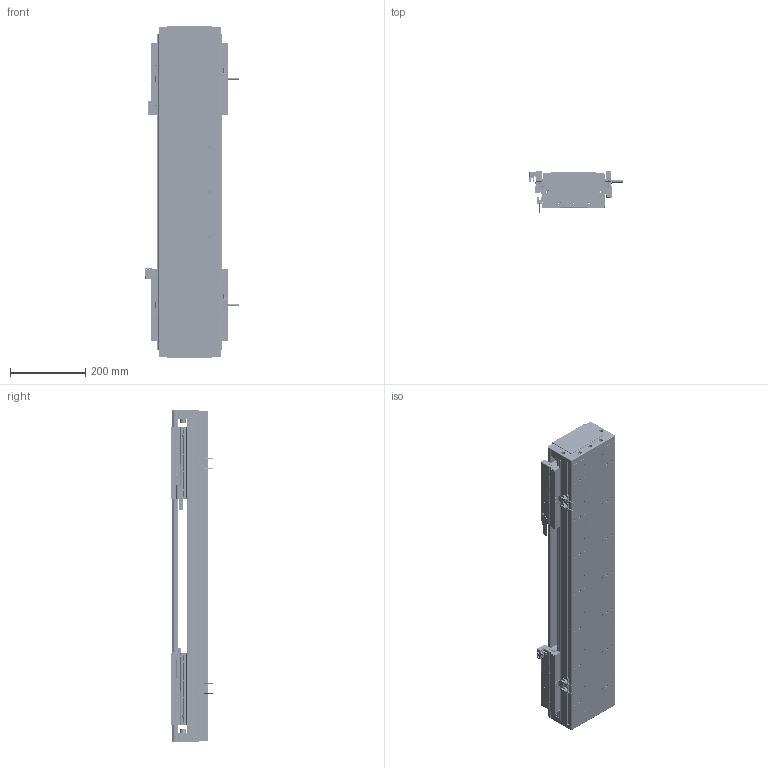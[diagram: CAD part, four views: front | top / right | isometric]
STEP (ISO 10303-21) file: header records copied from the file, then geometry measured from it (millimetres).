
FILE_DESCRIPTION (( 'STEP AP203' ), '1' );
FILE_NAME ('DA-C165-2-C2-T380-C010-0.2 直线电机.STEP', '2023-05-11T08:15:52', ( '微软用户' ), ( '微软中国' ), 'SwSTEP 2.0', 'SolidWorks 2019', '' );
FILE_SCHEMA (( 'CONFIG_CONTROL_DESIGN' ));
Length unit declared in the file: millimetre
Products named in the file (19): 复件 66338-1000-006-00 光电感应块^DA-C165-C2-T-C010-0.2-N 直线电机; 葩璃 PM-T45^DA-C165-C2-T-C010-0.2-N 眻盄萇儂; 复件 DA95-HXJ-00 缓冲橡胶^DA-C165-C2-T-C010-0.2-N 直线电机; IU-CU165-L-00 菁釱_L840; DA-C165-2-C2-T380-C010-0.2 眻盄萇儂; 复件 DA165-T-002-00 盖板^DA-C165-C2-T-C010-0.2-N 直线电机_0840-002-00; 复件 CKM02-W075-C1C2-TP-3.0 一体电机-C2^DA-C165-C2-T-C010-0.2-N 直线电机; 葩璃 PM-Y45^DA-C165-C2-T-C010-0.2-N 眻盄萇儂; 复件 DA165-GYP-00 光电感应片^DA-C165-C2-T-C010-0.2-N 直线电机; 复件 DA126-GYP-ZJ-00 中间光电感应片^DA-C165-C2-T-C010-0.2-N 直线电机; 复件 XD-U-02L 磁栅尺^DA-C165-C2-T-C010-0.2-N 直线电机_T; 复件 DA165-DG-H-N-00 端盖^DA-C165-C2-T-C010-0.2-N 直线电机; 葩璃 DA95-GT-T-00^IU-CU165-L 菁釱絳寢_T; 复件 DMA-010-0.2 读数头^DA-C165-C2-T-C010-0.2-N 直线电机; 复件 DKW-HXJ-JY-00 缓冲橡胶^DA-C165-C2-T-C010-0.2-N 直线电机; 复件 六角薄螺母 M3^DA-C165-C2-T-C010-0.2-N 直线电机_GB_FASTENER_NUT_STNAB M3-C; 葩璃 CKM01-W075-TRL^DA-C165-C2-T-C010-0.2-N 眻盄萇儂; 珨极趙賑雄怢啣wf-C2; IU-CU165-L 菁釱絳寢
Assembly tree (38 placements, depth 3):
  DA-C165-2-C2-T380-C010-0.2 眻盄萇儂
    IU-CU165-L 菁釱絳寢
      IU-CU165-L-00 菁釱_L840
      葩璃 DA95-GT-T-00^IU-CU165-L 菁釱絳寢_T  x4
    复件 DA165-DG-H-N-00 端盖^DA-C165-C2-T-C010-0.2-N 直线电机  x2
    复件 DA95-HXJ-00 缓冲橡胶^DA-C165-C2-T-C010-0.2-N 直线电机  x4
    复件 DA165-T-002-00 盖板^DA-C165-C2-T-C010-0.2-N 直线电机_0840-002-00
    复件 XD-U-02L 磁栅尺^DA-C165-C2-T-C010-0.2-N 直线电机_T
    葩璃 PM-T45^DA-C165-C2-T-C010-0.2-N 眻盄萇儂  x4
    葩璃 CKM01-W075-TRL^DA-C165-C2-T-C010-0.2-N 眻盄萇儂
    复件 CKM02-W075-C1C2-TP-3.0 一体电机-C2^DA-C165-C2-T-C010-0.2-N 直线电机  x2
    复件 DMA-010-0.2 读数头^DA-C165-C2-T-C010-0.2-N 直线电机  x2
    复件 DA165-GYP-00 光电感应片^DA-C165-C2-T-C010-0.2-N 直线电机  x2
    复件 66338-1000-006-00 光电感应块^DA-C165-C2-T-C010-0.2-N 直线电机
    葩璃 PM-Y45^DA-C165-C2-T-C010-0.2-N 眻盄萇儂
    复件 DA126-GYP-ZJ-00 中间光电感应片^DA-C165-C2-T-C010-0.2-N 直线电机
    复件 DKW-HXJ-JY-00 缓冲橡胶^DA-C165-C2-T-C010-0.2-N 直线电机  x2
    复件 六角薄螺母 M3^DA-C165-C2-T-C010-0.2-N 直线电机_GB_FASTENER_NUT_STNAB M3-C  x6
    珨极趙賑雄怢啣wf-C2  x2
Bounding box: 247.2 x 111.45 x 880 mm (x, y, z)
Volume: 8387691.9 mm3; surface area: 2114708 mm2
Topology: 115 solids, 115 shells, 4748 faces, 12527 edges, 7770 vertices
Faces by surface type: cylinder 2214, plane 1758, cone 680, torus 88, sphere 8
Entity records: 92388 total; most frequent: CARTESIAN_POINT 20416, DIRECTION 14787, ORIENTED_EDGE 14300, EDGE_CURVE 7150, AXIS2_PLACEMENT_3D 5490, VERTEX_POINT 4607, LINE 3807, VECTOR 3807
